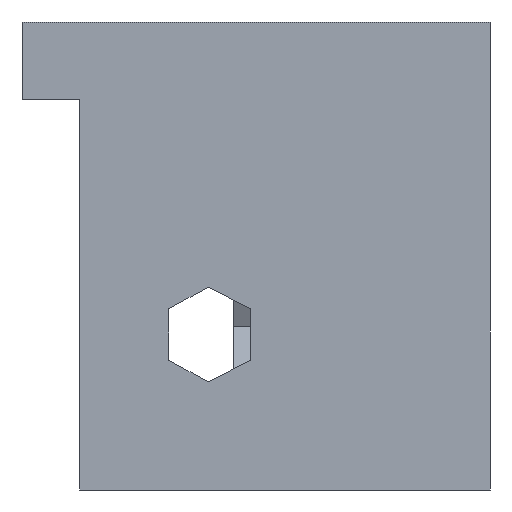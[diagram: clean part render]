
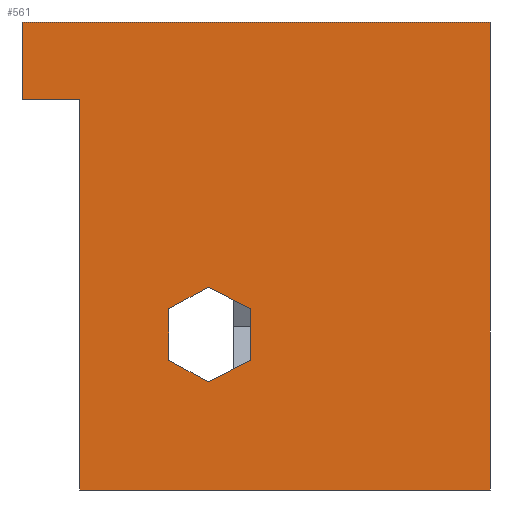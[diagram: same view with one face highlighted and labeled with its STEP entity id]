
A CAD part, front view. The second image highlights one B-rep face of the part: STEP entity #561.
In plain terms, the highlighted planar face has unit normal (0, -1, 0).
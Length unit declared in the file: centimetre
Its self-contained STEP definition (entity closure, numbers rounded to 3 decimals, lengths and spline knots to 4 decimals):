
#20 = LINE ( 'NONE', #160, #808 ) ;
#35 = VECTOR ( 'NONE', #386, 100. ) ;
#38 = LINE ( 'NONE', #543, #766 ) ;
#44 = CARTESIAN_POINT ( 'NONE',  ( 0., 0., 1000. ) ) ;
#48 = VERTEX_POINT ( 'NONE', #738 ) ;
#54 = DIRECTION ( 'NONE',  ( 0., 0., -1. ) ) ;
#65 = VERTEX_POINT ( 'NONE', #621 ) ;
#73 = EDGE_CURVE ( 'NONE', #383, #477, #765, .T. ) ;
#76 = EDGE_CURVE ( 'NONE', #909, #703, #678, .T. ) ;
#86 = LINE ( 'NONE', #155, #332 ) ;
#113 = CARTESIAN_POINT ( 'NONE',  ( 313.0637, 0., 386.9858 ) ) ;
#135 = VECTOR ( 'NONE', #675, 100. ) ;
#151 = EDGE_CURVE ( 'NONE', #264, #492, #831, .T. ) ;
#155 = CARTESIAN_POINT ( 'NONE',  ( 0., 0., 1000. ) ) ;
#160 = CARTESIAN_POINT ( 'NONE',  ( 1000., 0., 1000. ) ) ;
#168 = LINE ( 'NONE', #522, #35 ) ;
#177 = DIRECTION ( 'NONE',  ( 0., 0., 1. ) ) ;
#198 = VECTOR ( 'NONE', #804, 100. ) ;
#223 = CARTESIAN_POINT ( 'NONE',  ( 488.4934, 0., 277.4964 ) ) ;
#226 = VERTEX_POINT ( 'NONE', #718 ) ;
#227 = CARTESIAN_POINT ( 'NONE',  ( 123.3382, 0., 835.0994 ) ) ;
#229 = DIRECTION ( 'NONE',  ( 0., 0., 1. ) ) ;
#236 = EDGE_LOOP ( 'NONE', ( #908, #305, #642, #469, #300, #393 ) ) ;
#258 = VERTEX_POINT ( 'NONE', #786 ) ;
#264 = VERTEX_POINT ( 'NONE', #704 ) ;
#276 = CARTESIAN_POINT ( 'NONE',  ( 123.3382, 0., 835.0994 ) ) ;
#288 = ORIENTED_EDGE ( 'NONE', *, *, #73, .T. ) ;
#300 = ORIENTED_EDGE ( 'NONE', *, *, #857, .F. ) ;
#305 = ORIENTED_EDGE ( 'NONE', *, *, #460, .F. ) ;
#306 = LINE ( 'NONE', #584, #198 ) ;
#315 = DIRECTION ( 'NONE',  ( 0.888, 0., 0.459 ) ) ;
#332 = VECTOR ( 'NONE', #651, 100. ) ;
#343 = DIRECTION ( 'NONE',  ( -0.888, 0., 0.459 ) ) ;
#346 = VECTOR ( 'NONE', #54, 100. ) ;
#350 = DIRECTION ( 'NONE',  ( 1., 0., 0. ) ) ;
#355 = ORIENTED_EDGE ( 'NONE', *, *, #827, .F. ) ;
#373 = EDGE_CURVE ( 'NONE', #65, #614, #306, .T. ) ;
#382 = CARTESIAN_POINT ( 'NONE',  ( 0., 0., 1000. ) ) ;
#383 = VERTEX_POINT ( 'NONE', #227 ) ;
#386 = DIRECTION ( 'NONE',  ( -1., 0., 0. ) ) ;
#388 = ORIENTED_EDGE ( 'NONE', *, *, #76, .T. ) ;
#393 = ORIENTED_EDGE ( 'NONE', *, *, #151, .F. ) ;
#400 = CARTESIAN_POINT ( 'NONE',  ( 398.4099, 0., 230.9567 ) ) ;
#404 = EDGE_CURVE ( 'NONE', #477, #258, #732, .T. ) ;
#415 = ORIENTED_EDGE ( 'NONE', *, *, #722, .F. ) ;
#436 = VERTEX_POINT ( 'NONE', #650 ) ;
#446 = VECTOR ( 'NONE', #315, 100. ) ;
#449 = AXIS2_PLACEMENT_3D ( 'NONE', #474, #820, #177 ) ;
#459 = FACE_OUTER_BOUND ( 'NONE', #882, .T. ) ;
#460 = EDGE_CURVE ( 'NONE', #226, #436, #733, .T. ) ;
#466 = LINE ( 'NONE', #113, #135 ) ;
#469 = ORIENTED_EDGE ( 'NONE', *, *, #373, .F. ) ;
#474 = CARTESIAN_POINT ( 'NONE',  ( 0., 0., 1000. ) ) ;
#477 = VERTEX_POINT ( 'NONE', #856 ) ;
#492 = VERTEX_POINT ( 'NONE', #677 ) ;
#506 = CARTESIAN_POINT ( 'NONE',  ( 0., 0., 835.0994 ) ) ;
#508 = CARTESIAN_POINT ( 'NONE',  ( 0., 0., 0. ) ) ;
#522 = CARTESIAN_POINT ( 'NONE',  ( 123.3382, 0., 835.0994 ) ) ;
#528 = FACE_BOUND ( 'NONE', #236, .T. ) ;
#535 = DIRECTION ( 'NONE',  ( -0.878, 0., -0.479 ) ) ;
#540 = LINE ( 'NONE', #400, #446 ) ;
#543 = CARTESIAN_POINT ( 'NONE',  ( 488.4934, 0., 386.9858 ) ) ;
#545 = EDGE_CURVE ( 'NONE', #614, #226, #540, .T. ) ;
#561 = ADVANCED_FACE ( 'NONE', ( #528, #459 ), #742, .F. ) ;
#572 = EDGE_CURVE ( 'NONE', #436, #264, #38, .T. ) ;
#578 = DIRECTION ( 'NONE',  ( 0., 0., -1. ) ) ;
#584 = CARTESIAN_POINT ( 'NONE',  ( 313.0637, 0., 277.4964 ) ) ;
#592 = EDGE_CURVE ( 'NONE', #383, #703, #168, .T. ) ;
#593 = CARTESIAN_POINT ( 'NONE',  ( 398.4099, 0., 230.9567 ) ) ;
#594 = VECTOR ( 'NONE', #350, 100. ) ;
#608 = VECTOR ( 'NONE', #535, 100. ) ;
#614 = VERTEX_POINT ( 'NONE', #593 ) ;
#621 = CARTESIAN_POINT ( 'NONE',  ( 313.0637, 0., 277.4964 ) ) ;
#642 = ORIENTED_EDGE ( 'NONE', *, *, #545, .F. ) ;
#650 = CARTESIAN_POINT ( 'NONE',  ( 488.4934, 0., 386.9858 ) ) ;
#651 = DIRECTION ( 'NONE',  ( 1., 0., 0. ) ) ;
#675 = DIRECTION ( 'NONE',  ( 0., 0., -1. ) ) ;
#677 = CARTESIAN_POINT ( 'NONE',  ( 313.0637, 0., 386.9858 ) ) ;
#678 = LINE ( 'NONE', #44, #713 ) ;
#681 = CARTESIAN_POINT ( 'NONE',  ( 398.4099, 0., 433.5255 ) ) ;
#686 = DIRECTION ( 'NONE',  ( 0., 0., -1. ) ) ;
#703 = VERTEX_POINT ( 'NONE', #506 ) ;
#704 = CARTESIAN_POINT ( 'NONE',  ( 398.4099, 0., 433.5255 ) ) ;
#713 = VECTOR ( 'NONE', #686, 100. ) ;
#718 = CARTESIAN_POINT ( 'NONE',  ( 488.4934, 0., 277.4964 ) ) ;
#722 = EDGE_CURVE ( 'NONE', #48, #258, #20, .T. ) ;
#731 = ORIENTED_EDGE ( 'NONE', *, *, #404, .T. ) ;
#732 = LINE ( 'NONE', #508, #594 ) ;
#733 = LINE ( 'NONE', #223, #904 ) ;
#738 = CARTESIAN_POINT ( 'NONE',  ( 1000., 0., 1000. ) ) ;
#742 = PLANE ( 'NONE',  #449 ) ;
#765 = LINE ( 'NONE', #276, #346 ) ;
#766 = VECTOR ( 'NONE', #343, 100. ) ;
#785 = ORIENTED_EDGE ( 'NONE', *, *, #592, .F. ) ;
#786 = CARTESIAN_POINT ( 'NONE',  ( 1000., 0., 0. ) ) ;
#804 = DIRECTION ( 'NONE',  ( 0.878, 0., -0.479 ) ) ;
#808 = VECTOR ( 'NONE', #578, 100. ) ;
#820 = DIRECTION ( 'NONE',  ( 0., 1., 0. ) ) ;
#827 = EDGE_CURVE ( 'NONE', #909, #48, #86, .T. ) ;
#831 = LINE ( 'NONE', #681, #608 ) ;
#856 = CARTESIAN_POINT ( 'NONE',  ( 123.3382, 0., 0. ) ) ;
#857 = EDGE_CURVE ( 'NONE', #492, #65, #466, .T. ) ;
#882 = EDGE_LOOP ( 'NONE', ( #785, #288, #731, #415, #355, #388 ) ) ;
#904 = VECTOR ( 'NONE', #229, 100. ) ;
#908 = ORIENTED_EDGE ( 'NONE', *, *, #572, .F. ) ;
#909 = VERTEX_POINT ( 'NONE', #382 ) ;
